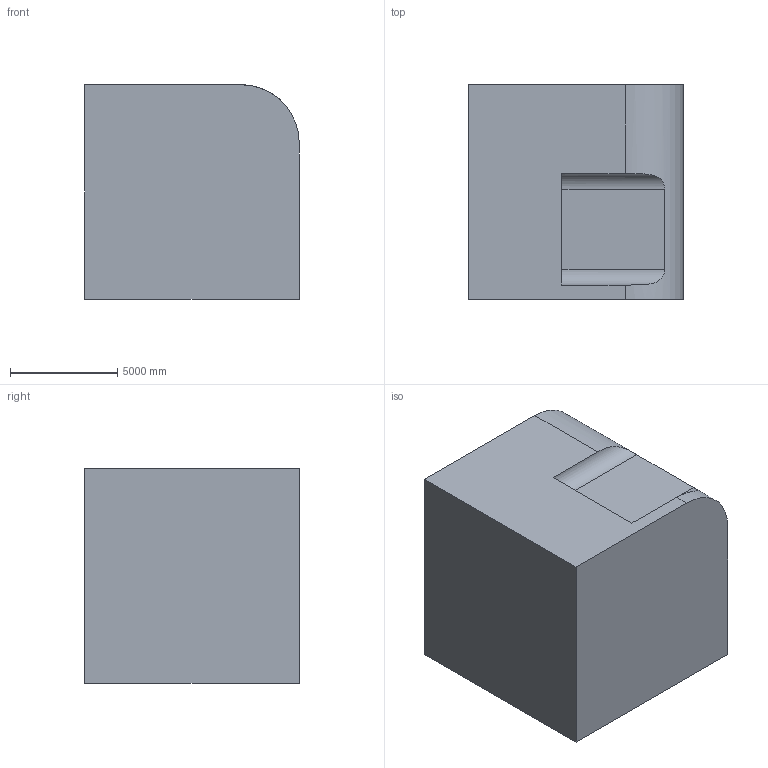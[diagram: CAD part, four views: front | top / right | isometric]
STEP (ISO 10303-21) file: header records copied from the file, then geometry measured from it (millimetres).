
FILE_DESCRIPTION (( 'STEP AP203' ), '1' );
FILE_NAME ('32.STEP', '2022-08-31T11:13:32', ( 'user' ), ( '' ), 'SwSTEP 2.0', 'SolidWorks 2021', '' );
FILE_SCHEMA (( 'CONFIG_CONTROL_DESIGN' ));
Length unit declared in the file: centimetre
Products named in the file (1): 32
Bounding box: 10000 x 10000 x 10000 mm (x, y, z)
Volume: 969339988508.7 mm3; surface area: 591189344 mm2
Topology: 1 solids, 1 shells, 11 faces, 27 edges, 18 vertices
Faces by surface type: plane 8, cylinder 3
Entity records: 574 total; most frequent: CARTESIAN_POINT 233, ORIENTED_EDGE 54, DIRECTION 53, EDGE_CURVE 27, LINE 21, VECTOR 21, VERTEX_POINT 18, AXIS2_PLACEMENT_3D 16
